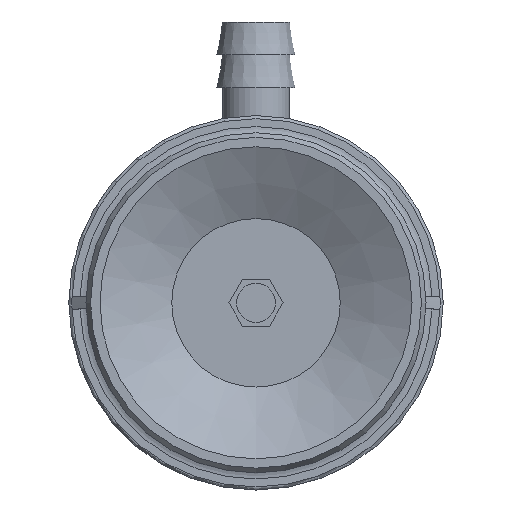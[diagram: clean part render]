
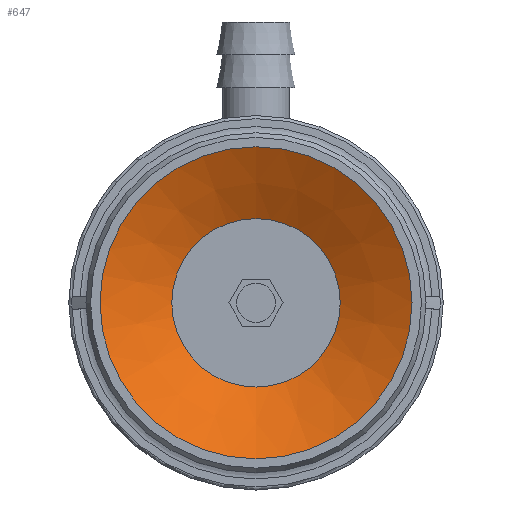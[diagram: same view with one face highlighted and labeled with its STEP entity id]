
A CAD part, front view. The second image highlights one B-rep face of the part: STEP entity #647.
In plain terms, the highlighted conical face has half-angle 61.631 degrees and reference radius 5.4 mm.
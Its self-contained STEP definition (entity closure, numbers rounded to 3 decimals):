
#647=ADVANCED_FACE('',(#992,#993),#994,.F.);
#992=FACE_BOUND('',#1381,.T.);
#993=FACE_OUTER_BOUND('',#1382,.T.);
#994=CONICAL_SURFACE('',#1383,5.4,1.076);
#1381=EDGE_LOOP('',(#2383));
#1382=EDGE_LOOP('',(#2384));
#1383=AXIS2_PLACEMENT_3D('',#2385,#2386,#2387);
#2383=ORIENTED_EDGE('',*,*,#2796,.F.);
#2384=ORIENTED_EDGE('',*,*,#2818,.T.);
#2385=CARTESIAN_POINT('',(0.0,2.484,0.0));
#2386=DIRECTION('',(-0.0,-1.0,0.));
#2387=DIRECTION('',(0.0,0.,-1.0));
#2796=EDGE_CURVE('',#3278,#3278,#3279,.T.);
#2818=EDGE_CURVE('',#3312,#3312,#3313,.T.);
#3278=VERTEX_POINT('',#4274);
#3279=CIRCLE('',#4275,5.4);
#3312=VERTEX_POINT('',#4320);
#3313=CIRCLE('',#4321,10.0);
#4274=CARTESIAN_POINT('',(0.0,2.484,-5.4));
#4275=AXIS2_PLACEMENT_3D('',#4776,#4777,#4778);
#4320=CARTESIAN_POINT('',(0.0,0.,-10.0));
#4321=AXIS2_PLACEMENT_3D('',#4818,#4819,#4820);
#4776=CARTESIAN_POINT('',(0.0,2.484,0.0));
#4777=DIRECTION('',(0.0,-1.0,0.));
#4778=DIRECTION('',(0.0,0.,-1.0));
#4818=CARTESIAN_POINT('',(0.0,0.0,0.0));
#4819=DIRECTION('',(0.0,-1.0,0.));
#4820=DIRECTION('',(0.0,0.,-1.0));
